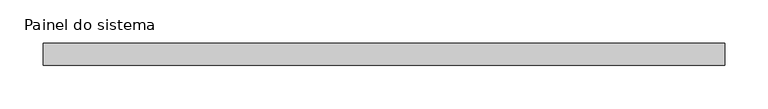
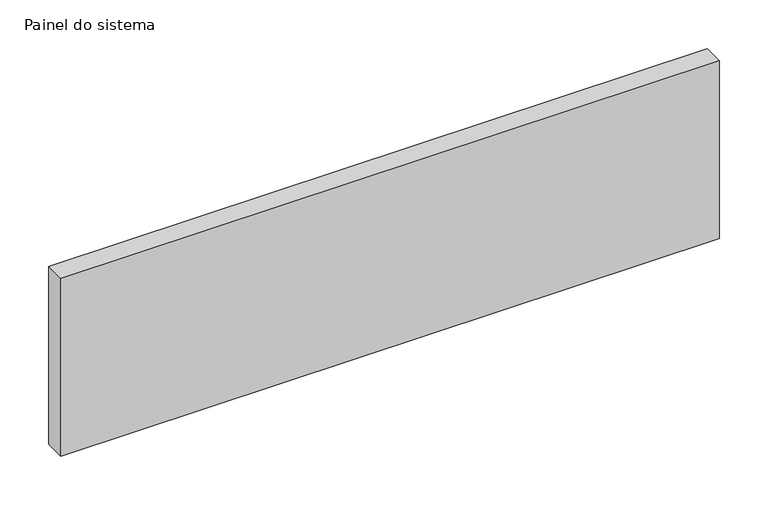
"""IFC4 building model written with IfcOpenShell, lengths in millimetres: plate geometry, Painel do sistema : Envidraçado."""

from ifc_helpers import new_model, si_unit, origin, origin_with_axes, place, context, project, spatial, polyline, outline, extrude, source, transform, mapped, element, save


def painel_do_sistema_8e3b1353(model_context):
    return source(origin(), model_context, "Body", "SweptSolid", [
        extrude(outline(polyline([(391.65, 24.5), (-391.65, 24.5), (-391.65, 49.5), (391.65, 49.5), (391.65, 24.5)])), origin_with_axes(), (0.0, 0.0, 1.0), 223.6217085),
    ])


if __name__ == "__main__":
    model = new_model("IFC4")
    model_context = context("Model", 3, world=origin())
    ifc_project = project(units=[si_unit("LENGTHUNIT", "METRE", prefix="MILLI")], contexts=[model_context])
    site = spatial("IfcSite", under=ifc_project)
    building = spatial("IfcBuilding", under=site)
    placement = place(None, origin())
    painel_do_sistema_shape = painel_do_sistema_8e3b1353(model_context)
    element("IfcPlate", 1, ObjectType="Painel do sistema : Envidraçado", at=placement, inside=building, context=model_context, shape_type="MappedRepresentation", body=[
        mapped(painel_do_sistema_shape, transform((0.0, 0.0, 0.0), x_axis=(1.0, 0.0, 0.0), y_axis=(0.0, 1.0, 0.0), z_axis=(0.0, 0.0, 1.0))),
    ])
    save(model, "model.ifc")
